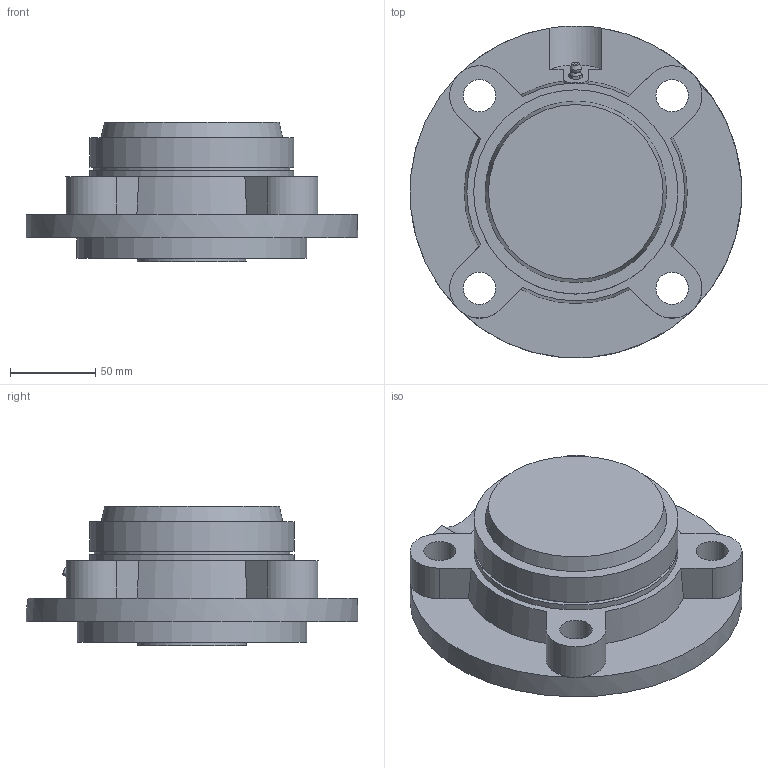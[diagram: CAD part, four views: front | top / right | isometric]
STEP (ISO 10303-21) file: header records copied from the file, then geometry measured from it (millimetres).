
FILE_DESCRIPTION((''),'2;1');
FILE_NAME('\\Ts-tgl068\j-cad-d-base\00.3DCADデータ作成フォルダ\02.フランジ形\UKFC200C(E)\UKFC212E+H.stp','2014-05-22T07:52:52',('btec_1106_2'),(''),'Autodesk Inventor 2012','Autodesk Inventor 2012','');
FILE_SCHEMA(('AUTOMOTIVE_DESIGN { 1 0 10303 214 1 1 1 1 }'));
Length unit declared in the file: millimetre
Products named in the file (5): UKFC200E+H; FC212C; 212CPE; UK212; GU1
Assembly tree (4 placements, depth 2):
  UKFC200E+H
    FC212C
    212CPE
    UK212
    GU1
Bounding box: 194.77 x 194.94 x 82 mm (x, y, z)
Volume: 713408.7 mm3; surface area: 191197.6 mm2
Topology: 4 solids, 4 shells, 225 faces, 553 edges, 353 vertices
Faces by surface type: plane 100, cylinder 61, cone 56, sphere 4, bspline 2, torus 2
Full cylindrical faces by diameter (mm): 5.359 x1, 6.35 x1, 19 x4, 55 x1, 60 x1, 77 x2, 113 x1, 115 x1, 118 x2, 120 x3, 135 x1, 195 x1
Entity records: 6566 total; most frequent: CARTESIAN_POINT 1419, DIRECTION 1061, ORIENTED_EDGE 1020, EDGE_CURVE 510, AXIS2_PLACEMENT_3D 436, VERTEX_POINT 339, EDGE_LOOP 289, FACE_OUTER_BOUND 225
